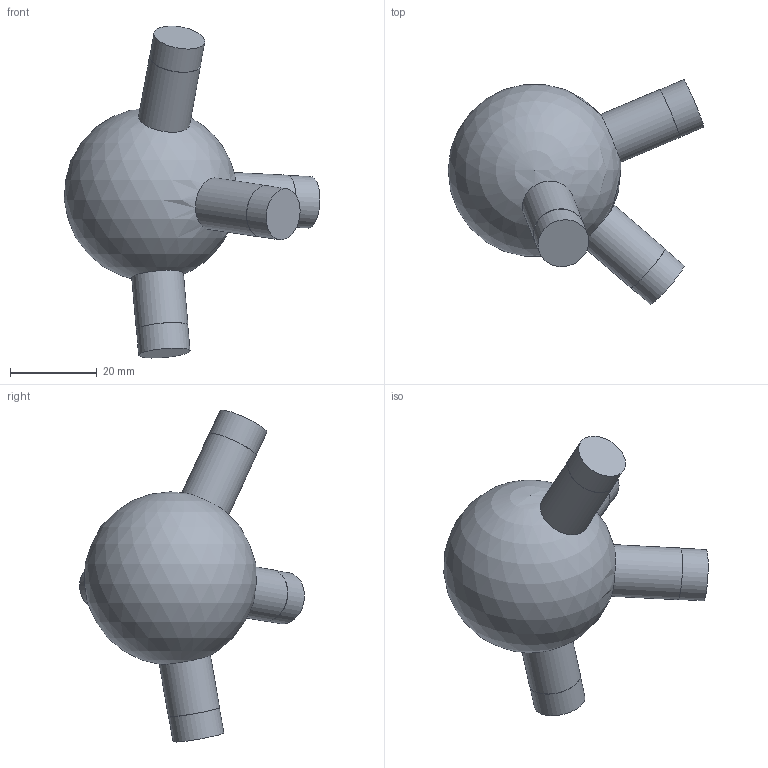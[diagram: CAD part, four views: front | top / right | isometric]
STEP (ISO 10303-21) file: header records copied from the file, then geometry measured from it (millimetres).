
FILE_DESCRIPTION(('Open CASCADE Model'),'2;1');
FILE_NAME('Open CASCADE Shape Model','2026-10-21T12:47:57',('Author'),( 'Open CASCADE'),'Open CASCADE STEP processor 7.9','Open CASCADE 7.9' ,'Unknown');
FILE_SCHEMA(('AUTOMOTIVE_DESIGN { 1 0 10303 214 1 1 1 1 }'));
Length unit declared in the file: millimetre
Products named in the file (1): Open CASCADE STEP translator 7.9 165
Bounding box: 59.11 x 51.96 x 76.73 mm (x, y, z)
Volume: 42569.5 mm3; surface area: 8113.1 mm2
Topology: 1 solids, 1 shells, 17 faces, 27 edges, 18 vertices
Faces by surface type: cylinder 8, plane 8, sphere 1
Full cylindrical faces by diameter (mm): 11.9 x4, 12 x4
Entity records: 1028 total; most frequent: CARTESIAN_POINT 410, DIRECTION 127, ORIENTED_EDGE 52, PCURVE 52, DEFINITIONAL_REPRESENTATION 52, LINE 43, VECTOR 43, AXIS2_PLACEMENT_3D 36
